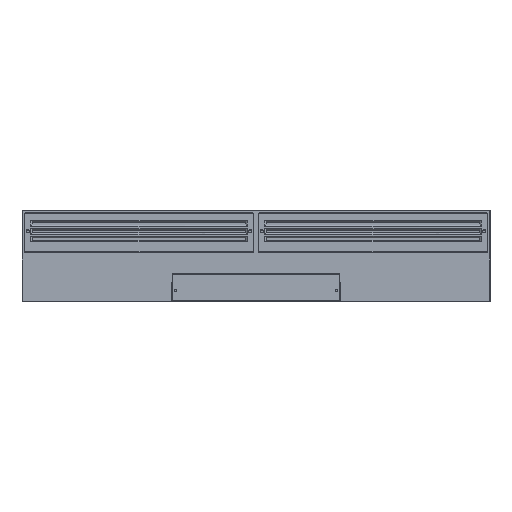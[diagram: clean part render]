
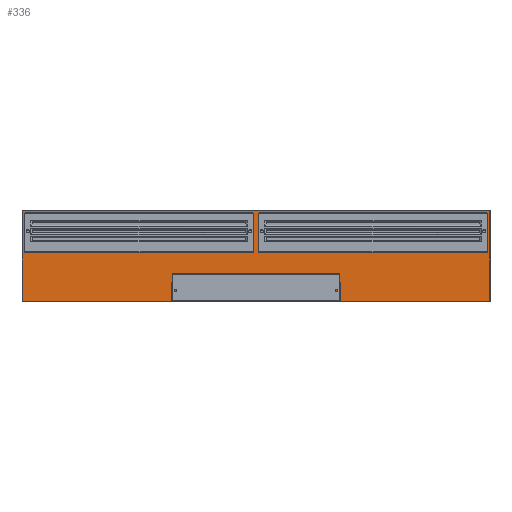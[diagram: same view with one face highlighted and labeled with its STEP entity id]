
A CAD part, top view. The second image highlights one B-rep face of the part: STEP entity #336.
In plain terms, the highlighted planar face has unit normal (0, 0, 1).
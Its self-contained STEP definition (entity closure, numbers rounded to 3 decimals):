
#17=DIRECTION('',(1.,0.,0.));
#18=VECTOR('',#17,364.);
#19=CARTESIAN_POINT('',(5.5,6.,8.));
#20=LINE('',#19,#18);
#21=CARTESIAN_POINT('',(369.5,8.,8.));
#22=DIRECTION('',(0.,0.,1.));
#23=DIRECTION('',(0.,-1.,0.));
#24=AXIS2_PLACEMENT_3D('',#21,#22,#23);
#26=DIRECTION('',(0.,1.,0.));
#27=VECTOR('',#26,59.);
#28=CARTESIAN_POINT('',(371.5,8.,8.));
#29=LINE('',#28,#27);
#30=CARTESIAN_POINT('',(369.5,67.,8.));
#31=DIRECTION('',(0.,0.,1.));
#32=DIRECTION('',(1.,0.,0.));
#33=AXIS2_PLACEMENT_3D('',#30,#31,#32);
#35=DIRECTION('',(-1.,0.,0.));
#36=VECTOR('',#35,364.);
#37=CARTESIAN_POINT('',(369.5,69.,8.));
#38=LINE('',#37,#36);
#39=CARTESIAN_POINT('',(5.5,67.,8.));
#40=DIRECTION('',(0.,0.,1.));
#41=DIRECTION('',(0.,1.,0.));
#42=AXIS2_PLACEMENT_3D('',#39,#40,#41);
#44=DIRECTION('',(0.,-1.,0.));
#45=VECTOR('',#44,59.);
#46=CARTESIAN_POINT('',(3.5,67.,8.));
#47=LINE('',#46,#45);
#48=CARTESIAN_POINT('',(5.5,8.,8.));
#49=DIRECTION('',(0.,0.,1.));
#50=DIRECTION('',(-1.,0.,0.));
#51=AXIS2_PLACEMENT_3D('',#48,#49,#50);
#53=DIRECTION('',(-1.,0.,0.));
#54=VECTOR('',#53,364.);
#55=CARTESIAN_POINT('',(-5.5,69.,8.));
#56=LINE('',#55,#54);
#57=CARTESIAN_POINT('',(-369.5,67.,8.));
#58=DIRECTION('',(0.,0.,1.));
#59=DIRECTION('',(0.,1.,0.));
#60=AXIS2_PLACEMENT_3D('',#57,#58,#59);
#62=DIRECTION('',(0.,-1.,0.));
#63=VECTOR('',#62,59.);
#64=CARTESIAN_POINT('',(-371.5,67.,8.));
#65=LINE('',#64,#63);
#66=CARTESIAN_POINT('',(-369.5,8.,8.));
#67=DIRECTION('',(0.,0.,1.));
#68=DIRECTION('',(-1.,0.,0.));
#69=AXIS2_PLACEMENT_3D('',#66,#67,#68);
#71=DIRECTION('',(1.,0.,0.));
#72=VECTOR('',#71,364.);
#73=CARTESIAN_POINT('',(-369.5,6.,8.));
#74=LINE('',#73,#72);
#75=CARTESIAN_POINT('',(-5.5,8.,8.));
#76=DIRECTION('',(0.,0.,1.));
#77=DIRECTION('',(0.,-1.,0.));
#78=AXIS2_PLACEMENT_3D('',#75,#76,#77);
#80=DIRECTION('',(0.,1.,0.));
#81=VECTOR('',#80,59.);
#82=CARTESIAN_POINT('',(-3.5,8.,8.));
#83=LINE('',#82,#81);
#84=CARTESIAN_POINT('',(-5.5,67.,8.));
#85=DIRECTION('',(0.,0.,1.));
#86=DIRECTION('',(1.,0.,0.));
#87=AXIS2_PLACEMENT_3D('',#84,#85,#86);
#89=DIRECTION('',(0.,-1.,0.));
#90=VECTOR('',#89,144.4);
#91=CARTESIAN_POINT('',(374.7,72.2,8.));
#92=LINE('',#91,#90);
#93=DIRECTION('',(-1.,0.,0.));
#94=VECTOR('',#93,749.4);
#95=CARTESIAN_POINT('',(374.7,-72.2,8.));
#96=LINE('',#95,#94);
#97=DIRECTION('',(0.,1.,0.));
#98=VECTOR('',#97,144.4);
#99=CARTESIAN_POINT('',(-374.7,-72.2,8.));
#100=LINE('',#99,#98);
#101=DIRECTION('',(1.,0.,0.));
#102=VECTOR('',#101,749.4);
#103=CARTESIAN_POINT('',(-374.7,72.2,8.));
#104=LINE('',#103,#102);
#105=CARTESIAN_POINT('',(5.5,-47.5,8.));
#106=DIRECTION('',(0.,0.,1.));
#107=DIRECTION('',(1.,0.,0.));
#108=AXIS2_PLACEMENT_3D('',#105,#106,#107);
#110=CARTESIAN_POINT('',(5.5,-47.5,8.));
#111=DIRECTION('',(0.,0.,1.));
#112=DIRECTION('',(-1.,0.,0.));
#113=AXIS2_PLACEMENT_3D('',#110,#111,#112);
#183=CARTESIAN_POINT('',(374.7,-72.2,8.));
#184=CARTESIAN_POINT('',(374.7,72.2,8.));
#185=VERTEX_POINT('',#183);
#186=VERTEX_POINT('',#184);
#191=CARTESIAN_POINT('',(-374.7,72.2,8.));
#192=VERTEX_POINT('',#191);
#193=CARTESIAN_POINT('',(-374.7,-72.2,8.));
#194=VERTEX_POINT('',#193);
#227=CARTESIAN_POINT('',(5.5,6.,8.));
#228=CARTESIAN_POINT('',(369.5,6.,8.));
#229=VERTEX_POINT('',#227);
#230=VERTEX_POINT('',#228);
#231=CARTESIAN_POINT('',(371.5,8.,8.));
#232=CARTESIAN_POINT('',(371.5,67.,8.));
#233=VERTEX_POINT('',#231);
#234=VERTEX_POINT('',#232);
#235=CARTESIAN_POINT('',(369.5,69.,8.));
#236=CARTESIAN_POINT('',(5.5,69.,8.));
#237=VERTEX_POINT('',#235);
#238=VERTEX_POINT('',#236);
#239=CARTESIAN_POINT('',(3.5,67.,8.));
#240=CARTESIAN_POINT('',(3.5,8.,8.));
#241=VERTEX_POINT('',#239);
#242=VERTEX_POINT('',#240);
#243=CARTESIAN_POINT('',(-5.5,6.,8.));
#244=CARTESIAN_POINT('',(-369.5,6.,8.));
#245=VERTEX_POINT('',#243);
#246=VERTEX_POINT('',#244);
#247=CARTESIAN_POINT('',(-371.5,8.,8.));
#248=CARTESIAN_POINT('',(-371.5,67.,8.));
#249=VERTEX_POINT('',#247);
#250=VERTEX_POINT('',#248);
#251=CARTESIAN_POINT('',(-369.5,69.,8.));
#252=CARTESIAN_POINT('',(-5.5,69.,8.));
#253=VERTEX_POINT('',#251);
#254=VERTEX_POINT('',#252);
#255=CARTESIAN_POINT('',(-3.5,67.,8.));
#256=CARTESIAN_POINT('',(-3.5,8.,8.));
#257=VERTEX_POINT('',#255);
#258=VERTEX_POINT('',#256);
#259=CARTESIAN_POINT('',(4.2,-47.5,8.));
#260=CARTESIAN_POINT('',(6.8,-47.5,8.));
#261=VERTEX_POINT('',#259);
#262=VERTEX_POINT('',#260);
#279=CARTESIAN_POINT('',(0.,0.,8.));
#280=DIRECTION('',(0.,0.,1.));
#281=DIRECTION('',(1.,0.,0.));
#282=AXIS2_PLACEMENT_3D('',#279,#280,#281);
#283=PLANE('',#282);
#285=ORIENTED_EDGE('',*,*,#284,.T.);
#287=ORIENTED_EDGE('',*,*,#286,.T.);
#289=ORIENTED_EDGE('',*,*,#288,.T.);
#291=ORIENTED_EDGE('',*,*,#290,.T.);
#292=EDGE_LOOP('',(#285,#287,#289,#291));
#293=FACE_OUTER_BOUND('',#292,.F.);
#295=ORIENTED_EDGE('',*,*,#294,.T.);
#297=ORIENTED_EDGE('',*,*,#296,.T.);
#299=ORIENTED_EDGE('',*,*,#298,.T.);
#301=ORIENTED_EDGE('',*,*,#300,.T.);
#303=ORIENTED_EDGE('',*,*,#302,.T.);
#305=ORIENTED_EDGE('',*,*,#304,.T.);
#307=ORIENTED_EDGE('',*,*,#306,.T.);
#309=ORIENTED_EDGE('',*,*,#308,.T.);
#310=EDGE_LOOP('',(#295,#297,#299,#301,#303,#305,#307,#309));
#311=FACE_BOUND('',#310,.F.);
#313=ORIENTED_EDGE('',*,*,#312,.T.);
#315=ORIENTED_EDGE('',*,*,#314,.T.);
#317=ORIENTED_EDGE('',*,*,#316,.T.);
#319=ORIENTED_EDGE('',*,*,#318,.T.);
#321=ORIENTED_EDGE('',*,*,#320,.T.);
#323=ORIENTED_EDGE('',*,*,#322,.T.);
#325=ORIENTED_EDGE('',*,*,#324,.T.);
#327=ORIENTED_EDGE('',*,*,#326,.T.);
#328=EDGE_LOOP('',(#313,#315,#317,#319,#321,#323,#325,#327));
#329=FACE_BOUND('',#328,.F.);
#331=ORIENTED_EDGE('',*,*,#330,.T.);
#333=ORIENTED_EDGE('',*,*,#332,.T.);
#334=EDGE_LOOP('',(#331,#333));
#335=FACE_BOUND('',#334,.F.);
#336=ADVANCED_FACE('',(#293,#311,#329,#335),#283,.T.);
#25=CIRCLE('',#24,2.);
#34=CIRCLE('',#33,2.);
#43=CIRCLE('',#42,2.);
#52=CIRCLE('',#51,2.);
#61=CIRCLE('',#60,2.);
#70=CIRCLE('',#69,2.);
#79=CIRCLE('',#78,2.);
#88=CIRCLE('',#87,2.);
#109=CIRCLE('',#108,1.3);
#114=CIRCLE('',#113,1.3);
#284=EDGE_CURVE('',#186,#185,#92,.T.);
#286=EDGE_CURVE('',#185,#194,#96,.T.);
#288=EDGE_CURVE('',#194,#192,#100,.T.);
#290=EDGE_CURVE('',#192,#186,#104,.T.);
#294=EDGE_CURVE('',#254,#253,#56,.T.);
#296=EDGE_CURVE('',#253,#250,#61,.T.);
#298=EDGE_CURVE('',#250,#249,#65,.T.);
#300=EDGE_CURVE('',#249,#246,#70,.T.);
#302=EDGE_CURVE('',#246,#245,#74,.T.);
#304=EDGE_CURVE('',#245,#258,#79,.T.);
#306=EDGE_CURVE('',#258,#257,#83,.T.);
#308=EDGE_CURVE('',#257,#254,#88,.T.);
#312=EDGE_CURVE('',#229,#230,#20,.T.);
#314=EDGE_CURVE('',#230,#233,#25,.T.);
#316=EDGE_CURVE('',#233,#234,#29,.T.);
#318=EDGE_CURVE('',#234,#237,#34,.T.);
#320=EDGE_CURVE('',#237,#238,#38,.T.);
#322=EDGE_CURVE('',#238,#241,#43,.T.);
#324=EDGE_CURVE('',#241,#242,#47,.T.);
#326=EDGE_CURVE('',#242,#229,#52,.T.);
#330=EDGE_CURVE('',#262,#261,#109,.T.);
#332=EDGE_CURVE('',#261,#262,#114,.T.);
